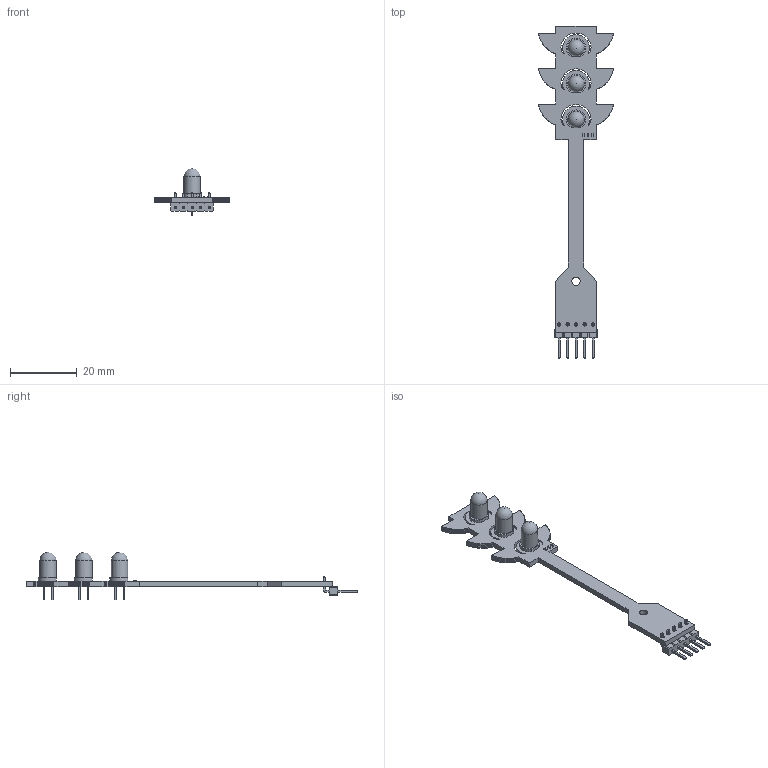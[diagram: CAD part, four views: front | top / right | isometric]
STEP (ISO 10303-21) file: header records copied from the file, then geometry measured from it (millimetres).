
FILE_DESCRIPTION(('KiCad electronic assembly'),'2;1');
FILE_NAME('STP_AXM0024.step','2024-11-12T16:41:51',('Pcbnew'),('Kicad'), 'Open CASCADE STEP processor 7.8','KiCad to STEP converter','Unknown' );
FILE_SCHEMA(('AUTOMOTIVE_DESIGN { 1 0 10303 214 1 1 1 1 }'));
Length unit declared in the file: millimetre
Products named in the file (8): STP_AXM0024 1; R_0402_1005Metric; LED_D5.0mm; PinHeader_1x05_P2.54mm_Horizontal; PinHeader_1x05_P254mm_Horizontal; TrafficLight_PCB
Assembly tree (11 placements, depth 3):
  STP_AXM0024 1
    R_0402_1005Metric  x3
      R_0402_1005Metric
    LED_D5.0mm  x3
      LED_D5.0mm
    PinHeader_1x05_P2.54mm_Horizontal
      PinHeader_1x05_P254mm_Horizontal
    TrafficLight_PCB
Bounding box: 22.57 x 99.34 x 14.1 mm (x, y, z)
Volume: 2028 mm3; surface area: 3325.2 mm2
Topology: 8 solids, 8 shells, 564 faces, 1541 edges, 1009 vertices
Faces by surface type: plane 508, cylinder 53, sphere 3
Full cylindrical faces by diameter (mm): 0.9 x6, 1 x5, 2.5 x1, 4.9 x3
Entity records: 16548 total; most frequent: CARTESIAN_POINT 2701, ORIENTED_EDGE 2668, DIRECTION 2385, EDGE_CURVE 1334, LINE 1267, VECTOR 1267, VERTEX_POINT 875, AXIS2_PLACEMENT_3D 559
